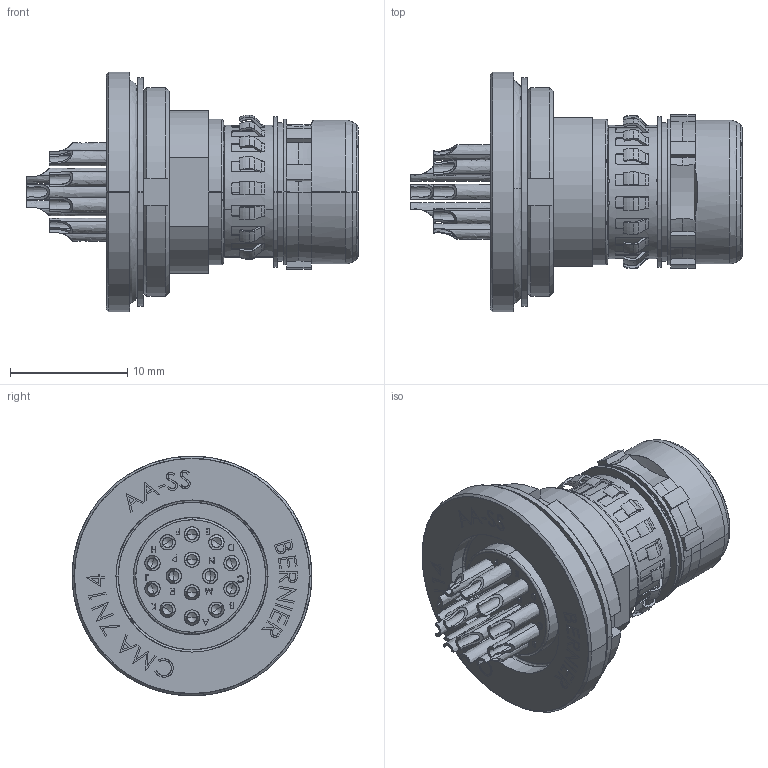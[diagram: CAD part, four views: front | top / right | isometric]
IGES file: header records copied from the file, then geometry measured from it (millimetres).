
Start section: SolidWorks IGES file using analytic representation for surfaces
Global section: file name: K:\BE\Fichiers IGES\CMA\CMA7N14.IGS; native system: SolidWorks 2014; preprocessor: SolidWorks 2014; author: lla; date: 141127.132342; units: millimetre
Bounding box: 28.37 x 20.5 x 20.5 mm (x, y, z)
Surface area: 3544.1 mm2 (no closed solid volume)
Topology: 0 solids, 0 shells, 1333 faces, 10833 edges, 10805 vertices
Faces by surface type: bspline 877, revolution 456
